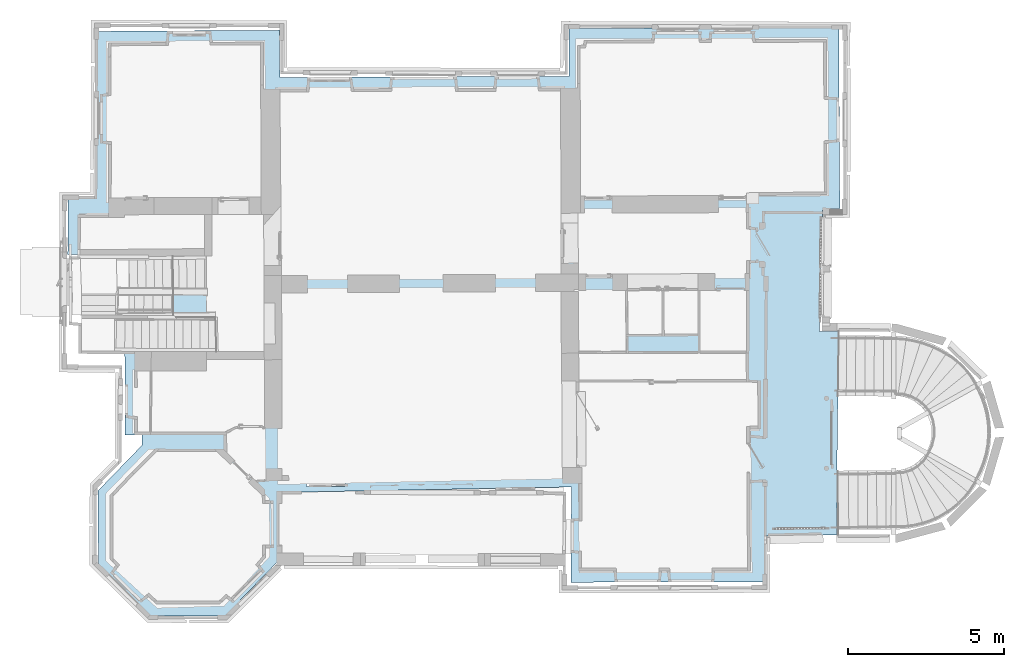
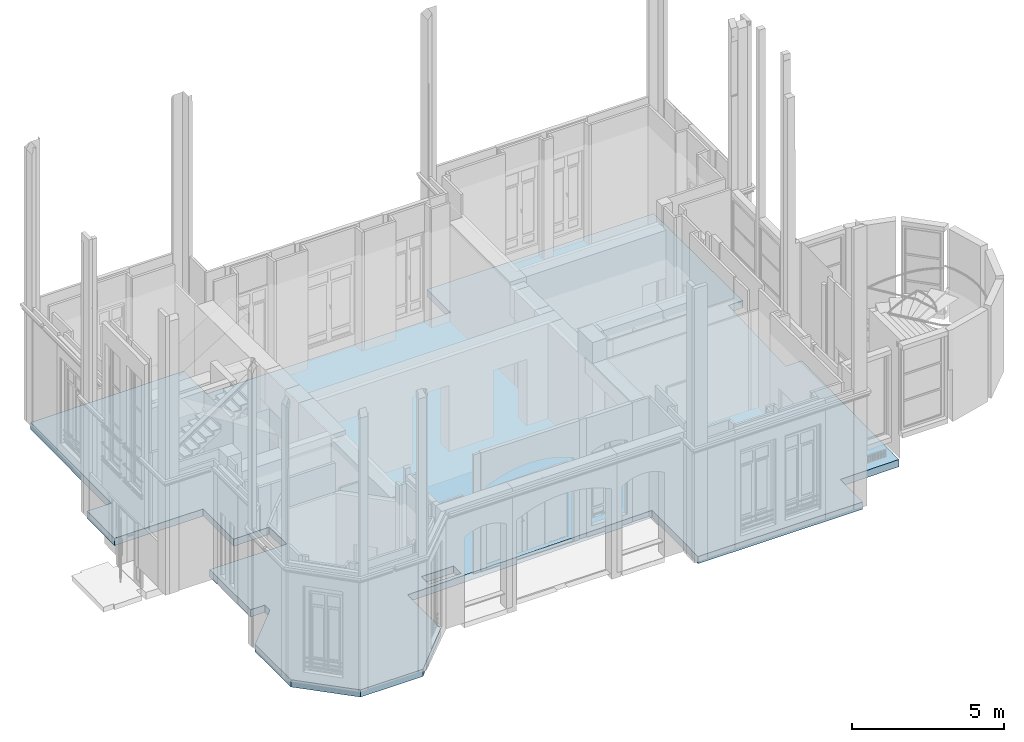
# One storey, part 2 of 97: 1 slab, 1 opening.
"""IFC2X3 building model written with IfcOpenShell, lengths in centimetres."""

import ifcopenshell
import ifcopenshell.guid

model = None  # the IFC model being written
_history = None  # IfcOwnerHistory: only IFC2X3 demands one
_inside = {}  # id of a spatial element -> (the spatial element, [elements in it])
_under = {}  # id of a project, library or spatial element -> (it, [spatial elements below it])
_declared = {}  # id of a project -> (the project, [libraries it declares])
_typed = {}  # id of a type object -> (the type object, [elements of that type])
_made_of = {}  # id of a material, layer set ... -> (it, [elements and type objects made of it])


def new_model(schema):
    """Start an empty IFC model of exactly this schema.

    Asked for "IFC4X3", IfcOpenShell would pick the latest addendum, in which some entities
    have other attributes; the version numbers below select the first issue.
    IFC2X3 requires an IfcOwnerHistory on every rooted entity: one is made here for all.
    """
    global model, _history
    if schema == "IFC4X3":
        model = ifcopenshell.file(schema_version=(4, 3, 0, 0))
    else:
        model = ifcopenshell.file(schema=schema)
    _inside.clear()
    _under.clear()
    _declared.clear()
    _typed.clear()
    _made_of.clear()
    _history = None
    if model.schema == "IFC2X3":
        org = make("IfcOrganization", Name="unknown")
        user = make(
            "IfcPersonAndOrganization",
            ThePerson=make("IfcPerson", FamilyName="unknown"),
            TheOrganization=org,
        )
        app = make(
            "IfcApplication",
            ApplicationDeveloper=org,
            Version="unknown",
            ApplicationFullName="unknown",
            ApplicationIdentifier="unknown",
        )
        _history = make(
            "IfcOwnerHistory",
            OwningUser=user,
            OwningApplication=app,
            ChangeAction="ADDED",
            CreationDate=0,
        )
    return model


def make(cls, **values):
    """One entity of the class cls with the attributes given. An attribute that is None is left unset."""
    return model.create_entity(
        cls, **{name: value for name, value in values.items() if value is not None}
    )


def entity(cls, *values):
    """Any entity or typed value of the class cls, its attributes in the order of the schema. None: left unset."""
    e = model.create_entity(cls)
    for i, value in enumerate(values):
        if value is not None:
            e[i] = value
    return e


def rooted(cls, **values):
    """An entity with a GlobalId (a new one), such as an element, a storey or a relation."""
    return make(cls, GlobalId=ifcopenshell.guid.new(), OwnerHistory=_history, **values)


def si_unit(unit_type, name, prefix=None):
    """IfcSIUnit, for example si_unit("LENGTHUNIT", "METRE", prefix="MILLI")."""
    return make("IfcSIUnit", UnitType=unit_type, Prefix=prefix, Name=name)


def converted_unit(unit_type, name, factor, base, dimensions=None, offset=None):
    """IfcConversionBasedUnit, such as the inch: factor (a typed value) times the base unit."""
    return make(
        "IfcConversionBasedUnit"
        if offset is None
        else "IfcConversionBasedUnitWithOffset",
        ConversionOffset=offset,
        Dimensions=None
        if dimensions is None
        else entity("IfcDimensionalExponents", *dimensions),
        UnitType=unit_type,
        Name=name,
        ConversionFactor=make(
            "IfcMeasureWithUnit", ValueComponent=factor, UnitComponent=base
        ),
    )


def assignment(units):
    """IfcUnitAssignment: the units of a project."""
    return None if units is None else make("IfcUnitAssignment", Units=units)


def point(xyz):
    """IfcCartesianPoint."""
    return None if xyz is None else make("IfcCartesianPoint", Coordinates=xyz)


def direction(xyz):
    """IfcDirection."""
    return None if xyz is None else make("IfcDirection", DirectionRatios=xyz)


def frame(location, z_axis=None, x_axis=None):
    """IfcAxis2Placement3D, a coordinate frame: its origin and axes. An axis left out is left unset."""
    return make(
        "IfcAxis2Placement3D",
        Location=point(location),
        Axis=direction(z_axis),
        RefDirection=direction(x_axis),
    )


def origin():
    """The frame at (0, 0, 0) with its axes left unset."""
    return frame((0.0, 0.0, 0.0))


def origin_with_axes():
    """The frame at (0, 0, 0) with the z axis (0, 0, 1) and the x axis (1, 0, 0) written out."""
    return frame((0.0, 0.0, 0.0), z_axis=(0.0, 0.0, 1.0), x_axis=(1.0, 0.0, 0.0))


def place(relative_to, where):
    """IfcLocalPlacement: puts the frame where relative to a parent placement (None: the world)."""
    return make(
        "IfcLocalPlacement", PlacementRelTo=relative_to, RelativePlacement=where
    )


def context(
    kind, dimensions, precision=None, world=None, true_north=None, identifier=None
):
    """IfcGeometricRepresentationContext, for example the 3D "Model" context."""
    return make(
        "IfcGeometricRepresentationContext",
        ContextIdentifier=identifier,
        ContextType=kind,
        CoordinateSpaceDimension=dimensions,
        Precision=precision,
        WorldCoordinateSystem=world,
        TrueNorth=true_north,
    )


def subcontext(parent, identifier, kind, view, scale=None):
    """IfcGeometricRepresentationSubContext, for example "Body" below "Model"."""
    return make(
        "IfcGeometricRepresentationSubContext",
        ContextIdentifier=identifier,
        ContextType=kind,
        ParentContext=parent,
        TargetScale=scale,
        TargetView=view,
    )


def project(units=None, contexts=None):
    """IfcProject with its units and contexts."""
    return rooted(
        "IfcProject",
        Name="project",
        RepresentationContexts=contexts,
        UnitsInContext=assignment(units),
    )


def spatial(cls, under=None, at=None, **own):
    """A site, building, storey or space (cls), placed at a placement, below another one or the project."""
    s = rooted(cls, ObjectPlacement=at, **own)
    if under is not None:
        _under.setdefault(under.id(), (under, []))[1].append(s)
    return s


def polyline(points):
    """IfcPolyline through the points."""
    return make("IfcPolyline", Points=[point(p) for p in points])


def outline(outer, holes=None, kind="AREA"):
    """IfcArbitraryClosedProfileDef: a profile drawn as a closed curve; with holes, ...WithVoids."""
    if holes is None:
        return make("IfcArbitraryClosedProfileDef", ProfileType=kind, OuterCurve=outer)
    return make(
        "IfcArbitraryProfileDefWithVoids",
        ProfileType=kind,
        OuterCurve=outer,
        InnerCurves=holes,
    )


def extrude(swept, where, along, depth):
    """IfcExtrudedAreaSolid: the profile swept, set in the frame where, extruded along a direction by depth."""
    return make(
        "IfcExtrudedAreaSolid",
        SweptArea=swept,
        Position=where,
        ExtrudedDirection=direction(along),
        Depth=depth,
    )


def shape(context_of_items, identifier, shape_type, items):
    """IfcShapeRepresentation: the items that make up one representation, for example the "Body"."""
    return make(
        "IfcShapeRepresentation",
        ContextOfItems=context_of_items,
        RepresentationIdentifier=identifier,
        RepresentationType=shape_type,
        Items=items,
    )


def material(Name=None, Category=None):
    """IfcMaterial."""
    return make("IfcMaterial", Name=Name, Category=Category)


def layer(
    of_material, thickness, ventilated=None, Name=None, Category=None, Priority=None
):
    """IfcMaterialLayer: one layer of a wall or slab, of a material (None: an air gap)."""
    return make(
        "IfcMaterialLayer",
        Material=of_material,
        LayerThickness=thickness,
        IsVentilated=ventilated,
        Name=Name,
        Category=Category,
        Priority=Priority,
    )


def layer_set(layers, Name=None):
    """IfcMaterialLayerSet."""
    return make("IfcMaterialLayerSet", MaterialLayers=layers, LayerSetName=Name)


def layer_usage(for_layer_set, set_direction, sense, offset, extent=None):
    """IfcMaterialLayerSetUsage: how a layer set lies in its element."""
    return make(
        "IfcMaterialLayerSetUsage",
        ForLayerSet=for_layer_set,
        LayerSetDirection=set_direction,
        DirectionSense=sense,
        OffsetFromReferenceLine=offset,
        ReferenceExtent=extent,
    )


def made_of(thing, what):
    """Note that an element or type object is made of a material, layer set ...; save() writes the relation."""
    if what is not None:
        _made_of.setdefault(what.id(), (what, []))[1].append(thing)
    return thing


def type_object(cls, material=None, **own):
    """A type object (cls), such as IfcWallType, which elements share."""
    return made_of(rooted(cls, **own), material)


def element(
    cls,
    number,
    at=None,
    inside=None,
    cuts=None,
    type_object=None,
    material=None,
    context=None,
    identifier="Body",
    shape_type=None,
    held_by="IfcProductDefinitionShape",
    body=None,
    shapes=None,
    **own,
):
    """One element of the class cls, such as IfcWall. Its Tag is "e" and its number.

    at: its placement. inside: the storey or other place that contains it. cuts: it is an
    opening in that element (IfcRelVoidsElement). A single representation is given by context,
    identifier, shape_type and body (its items); several are given by shapes. held_by: the class
    of the entity that holds the representations. save() writes the other relations.
    """
    e = rooted(cls, Tag="e%d" % number, ObjectPlacement=at, **own)
    if body is not None:
        shapes = [shape(context, identifier, shape_type, body)]
    if shapes is not None:
        e.Representation = make(held_by, Representations=shapes)
    if inside is not None:
        _inside.setdefault(inside.id(), (inside, []))[1].append(e)
    if cuts is not None:
        rooted(
            "IfcRelVoidsElement", RelatingBuildingElement=cuts, RelatedOpeningElement=e
        )
    if type_object is not None:
        _typed.setdefault(type_object.id(), (type_object, []))[1].append(e)
    return made_of(e, material)


def aggregate(whole, parts):
    """IfcRelAggregates: a whole, such as a stair, and the parts it consists of."""
    return rooted("IfcRelAggregates", RelatingObject=whole, RelatedObjects=parts)


def save(model, path):
    """Write the relations noted so far, then the file.

    IfcRelAggregates (storeys below a building ...), IfcRelContainedInSpatialStructure (elements
    in a storey), IfcRelDefinesByType, IfcRelAssociatesMaterial and IfcRelDeclares: one each for
    every whole, place, type object, material and project.
    """
    for whole, parts in _under.values():
        aggregate(whole, parts)
    for where, things in _inside.values():
        rooted(
            "IfcRelContainedInSpatialStructure",
            RelatedElements=things,
            RelatingStructure=where,
        )
    for kind, things in _typed.values():
        rooted("IfcRelDefinesByType", RelatedObjects=things, RelatingType=kind)
    for what, things in _made_of.values():
        rooted("IfcRelAssociatesMaterial", RelatedObjects=things, RelatingMaterial=what)
    for by, libraries in _declared.values():
        rooted("IfcRelDeclares", RelatingContext=by, RelatedDefinitions=libraries)
    model.write(path)


model = new_model("IFC2X3")

# Units and contexts
model_context = context("Model", 3, precision=0.0001, world=origin(), true_north=direction((0.225632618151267, 0.974212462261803, 0.0)))
body_context = subcontext(model_context, "Body", "Model", "MODEL_VIEW")
footprint_context = subcontext(model_context, "FootPrint", "Model", "MODEL_VIEW")
profile_context = subcontext(model_context, "Profile", "Model", "MODEL_VIEW")
ifc_project = project(units=[si_unit("LENGTHUNIT", "METRE", prefix="CENTI"), si_unit("AREAUNIT", "SQUARE_METRE", prefix="CENTI"), si_unit("VOLUMEUNIT", "CUBIC_METRE", prefix="CENTI"), converted_unit("PLANEANGLEUNIT", "DEGREE", entity("IfcRatioMeasure", 0.0174532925), si_unit("PLANEANGLEUNIT", "RADIAN"), dimensions=[0, 0, 0, 0, 0, 0, 0])], contexts=[model_context])

# Site, building, storey
site_placement = place(None, origin_with_axes())
site = spatial("IfcSite", under=ifc_project, at=site_placement, Name="Default Site", CompositionType="ELEMENT")
building_placement = place(site_placement, origin_with_axes())
building = spatial("IfcBuilding", under=site, at=building_placement, Name="Default Building", CompositionType="ELEMENT")
storey_placement = place(building_placement, origin_with_axes())
storey = spatial("IfcBuildingStorey", under=building, at=storey_placement, Name="Rez-de-chaussée", CompositionType="ELEMENT", Elevation=0.0)

# Slab, opening
ifc_material_1 = material(Name="Carreaux en céramique")
ifc_layer_1 = layer(ifc_material_1, 1.5)
ifc_material_2 = material(Name="Chape ordinaire")
ifc_layer_2 = layer(ifc_material_2, 4.0)
ifc_material_3 = material(Name="Dalle plane terre-cuite-ciment isolée")
ifc_layer_3 = layer(ifc_material_3, 22.5)
ifc_material_4 = material(Name="Enduit intérieur")
ifc_layer_4 = layer(ifc_material_4, 1.0)
ifc_layer_set = layer_set([ifc_layer_1, ifc_layer_2, ifc_layer_3, ifc_layer_4], Name="Plancher en brique-ciment")
ifc_layer_usage = layer_usage(ifc_layer_set, "AXIS3", "POSITIVE", 0.0)
slab_type = type_object("IfcSlabType", Name="Plancher en brique-ciment 290", PredefinedType="NOTDEFINED", material=ifc_layer_set)
slab_placement = place(storey_placement, frame((-196.818035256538, -313.878482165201, -29.0), z_axis=(0.0, 0.0, 1.0), x_axis=(1.0, 0.0, 0.0)))
slab = element("IfcSlab", 1, at=slab_placement, inside=storey, type_object=slab_type, material=ifc_layer_usage, Name="Enveloppe horizontale 5567", PredefinedType="NOTDEFINED", context=body_context, shape_type="SweptSolid", body=[
    extrude(outline(polyline([(-1052.3068764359, 1052.15565657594), (-469.471867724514, 1055.64284143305), (-468.156186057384, 904.757792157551), (458.302119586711, 908.21468460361), (457.870880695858, 1060.90986359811), (1321.13512765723, 1064.89890070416), (1324.57221183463, 485.577739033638), (1269.96198423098, 484.958336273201), (1259.49415269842, 90.7133947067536), (1320.83348368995, 90.6346098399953), (1315.4632750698, -352.020369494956), (1314.05492663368, -559.792334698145), (1089.17499552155, -562.720638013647), (1089.214170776, -711.233048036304), (463.509672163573, -711.398099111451), (465.235676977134, -406.542729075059), (-473.979101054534, -424.054264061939), (-474.502799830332, -617.238859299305), (-476.061853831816, -646.425440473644), (-643.196136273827, -818.973977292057), (-880.232104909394, -818.53731408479), (-1049.11364455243, -653.851010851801), (-1049.96997643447, -418.278876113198), (-909.566376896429, -273.247212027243), (-909.581138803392, -240.087001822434), (-963.670047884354, -240.111080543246), (-964.59108556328, 27.5213760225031), (-671.046533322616, 26.8726603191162), (-674.364840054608, 139.664580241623), (-809.114760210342, 137.978132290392), (-809.146331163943, 142.978032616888), (-809.146331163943, 338.548482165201), (-1147.07044939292, 338.548482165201), (-1145.59970696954, 519.371244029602), (-1054.53303052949, 518.588740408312), (-1052.3068764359, 1052.15565657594)])), origin_with_axes(), (0.0, 0.0, 1.0), 29.0),
])
opening_placement = place(slab_placement, frame((-382.152482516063, -356.529149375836, 14.5), z_axis=(0.0, 1.0, 0.0), x_axis=(1.0, 0.0, 0.0)))
cartesian_point_1 = entity("IfcCartesianPoint", [0.0, 0.0, 0.0])
cartesian_point_2 = entity("IfcCartesianPoint", [122.868949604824, -14.5, 0.0])
element("IfcOpeningElement", 2, at=opening_placement, cuts=slab, Name="Baie 780725", ObjectType="Opening", shapes=[
    shape(body_context, "Body", "SweptSolid", [extrude(outline(polyline([(0.0, 0.0), (0.0, -48.9999999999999), (122.868949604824, -48.9999999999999), (122.868949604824, 0.0), (0.0, 0.0)])), frame((0.0, 24.5, 0.0), z_axis=(0.0, -1.0, 0.0), x_axis=(1.0, 0.0, 0.0)), (0.0, 0.0, 1.0), 49.0)]),
    shape(profile_context, "Profile", "GeometricCurveSet", [entity("IfcGeometricCurveSet", [entity("IfcPolyline", [cartesian_point_1, entity("IfcCartesianPoint", [0.0, 0.0, -48.9999999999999]), entity("IfcCartesianPoint", [122.868949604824, 0.0, -48.9999999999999]), entity("IfcCartesianPoint", [122.868949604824, 0.0, 0.0]), cartesian_point_1])])]),
    shape(footprint_context, "FootPrint", "GeometricCurveSet", [entity("IfcGeometricCurveSet", [entity("IfcPolyline", [cartesian_point_2, entity("IfcCartesianPoint", [0.0, -14.5, 0.0]), entity("IfcCartesianPoint", [0.0, -14.5, -48.9999999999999]), entity("IfcCartesianPoint", [122.868949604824, -14.5, -48.9999999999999]), cartesian_point_2])])]),
])

save(model, "model.ifc")
